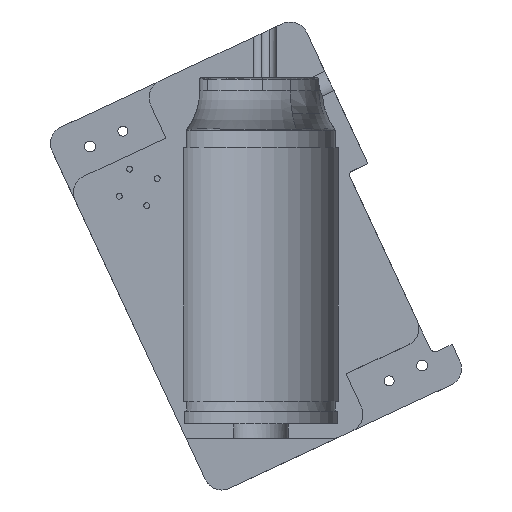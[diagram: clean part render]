
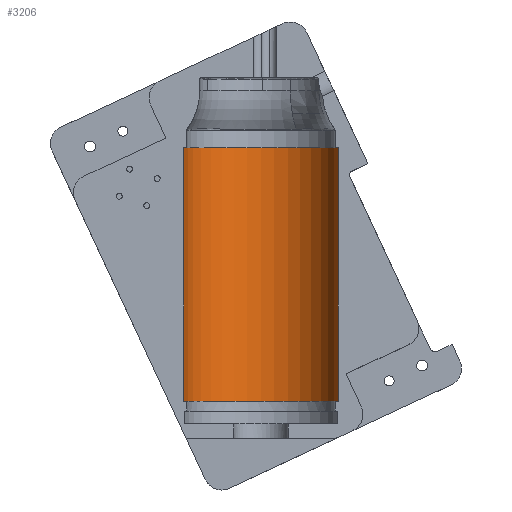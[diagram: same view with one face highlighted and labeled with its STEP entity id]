
A CAD part, top view. The second image highlights one B-rep face of the part: STEP entity #3206.
In plain terms, the highlighted cylindrical face has radius 43 mm (diameter 86 mm), a partial arc.
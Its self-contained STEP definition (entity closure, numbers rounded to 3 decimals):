
#1306=CARTESIAN_POINT('Vertex',(18.471,-137.078,0.)) ;
#1309=CARTESIAN_POINT('Axis2P3D Location',(-24.529,-137.078,0.)) ;
#1313=CARTESIAN_POINT('Vertex',(-67.529,-137.078,0.)) ;
#1337=CARTESIAN_POINT('Line Origine',(-67.529,-67.078,0.)) ;
#1341=CARTESIAN_POINT('Vertex',(-67.529,2.922,0.)) ;
#1361=CARTESIAN_POINT('Axis2P3D Location',(-24.529,2.922,0.)) ;
#1365=CARTESIAN_POINT('Vertex',(18.471,2.922,0.)) ;
#3159=CARTESIAN_POINT('Line Origine',(18.471,-67.078,0.)) ;
#3195=CARTESIAN_POINT('Axis2P3D Location',(-24.529,-67.078,0.)) ;
#1310=DIRECTION('Axis2P3D Direction',(0.,-1.,0.)) ;
#1338=DIRECTION('Vector Direction',(0.,-1.,0.)) ;
#1362=DIRECTION('Axis2P3D Direction',(0.,-1.,0.)) ;
#3160=DIRECTION('Vector Direction',(0.,-1.,0.)) ;
#3196=DIRECTION('Axis2P3D Direction',(0.,-1.,0.)) ;
#3197=DIRECTION('Axis2P3D XDirection',(-1.,0.,0.)) ;
#1311=AXIS2_PLACEMENT_3D('Circle Axis2P3D',#1309,#1310,$) ;
#1363=AXIS2_PLACEMENT_3D('Circle Axis2P3D',#1361,#1362,$) ;
#3198=AXIS2_PLACEMENT_3D('Cylinder Axis2P3D',#3195,#3196,#3197) ;
#3201=ORIENTED_EDGE('',*,*,#1343,.F.) ;
#3202=ORIENTED_EDGE('',*,*,#1315,.T.) ;
#3203=ORIENTED_EDGE('',*,*,#3163,.T.) ;
#3204=ORIENTED_EDGE('',*,*,#1367,.F.) ;
#1339=VECTOR('Line Direction',#1338,1.) ;
#3161=VECTOR('Line Direction',#3160,1.) ;
#3206=ADVANCED_FACE('\X2\51E04F554F53\X0\.8',(#3205),#3199,.F.) ;
#1312=CIRCLE('generated circle',#1311,43.) ;
#1364=CIRCLE('generated circle',#1363,43.) ;
#3199=CYLINDRICAL_SURFACE('generated cylinder',#3198,43.) ;
#1315=EDGE_CURVE('',#1314,#1307,#1312,.T.) ;
#1343=EDGE_CURVE('',#1314,#1342,#1340,.F.) ;
#1367=EDGE_CURVE('',#1342,#1366,#1364,.T.) ;
#3163=EDGE_CURVE('',#1307,#1366,#3162,.F.) ;
#3200=EDGE_LOOP('',(#3201,#3202,#3203,#3204)) ;
#3205=FACE_OUTER_BOUND('',#3200,.T.) ;
#1340=LINE('Line',#1337,#1339) ;
#3162=LINE('Line',#3159,#3161) ;
#1307=VERTEX_POINT('',#1306) ;
#1314=VERTEX_POINT('',#1313) ;
#1342=VERTEX_POINT('',#1341) ;
#1366=VERTEX_POINT('',#1365) ;
